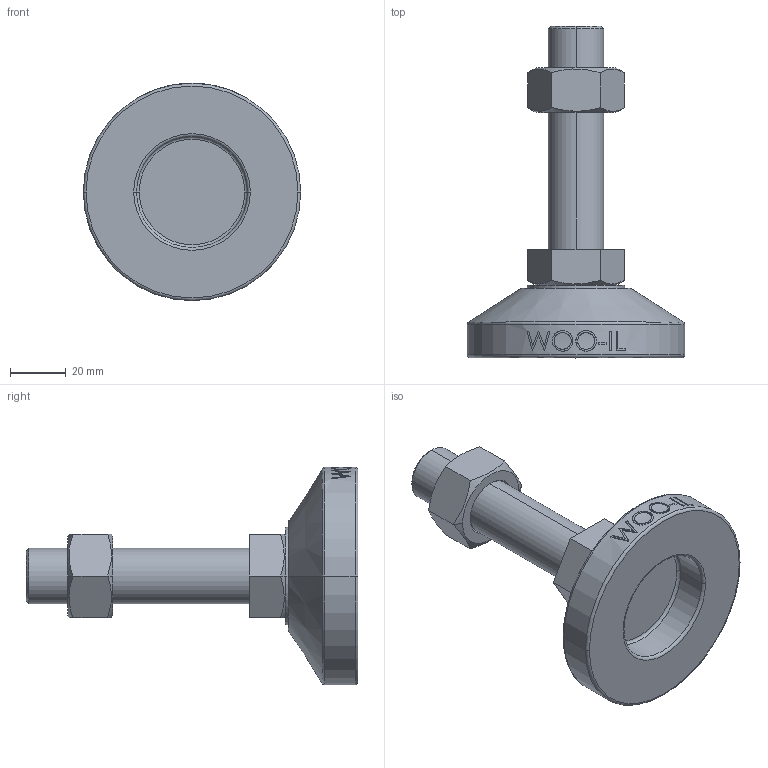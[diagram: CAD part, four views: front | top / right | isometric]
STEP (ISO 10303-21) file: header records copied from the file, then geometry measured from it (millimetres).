
FILE_DESCRIPTION (( 'STEP AP214' ), '1' );
FILE_NAME ('MF78-M20-80.step', '2021-02-03T08:22:05', ( '' ), ( '' ), 'SwSTEP 2.0', 'SolidWorks 2019', '' );
FILE_SCHEMA (( 'AUTOMOTIVE_DESIGN' ));
Length unit declared in the file: millimetre
Products named in the file (2): MF78-M20-80
Bounding box: 78 x 119 x 78 mm (x, y, z)
Volume: 122358.7 mm3; surface area: 26021 mm2
Topology: 3 solids, 3 shells, 106 faces, 243 edges, 154 vertices
Faces by surface type: plane 48, cylinder 18, bspline 16, cone 14, torus 10
Entity records: 4532 total; most frequent: CARTESIAN_POINT 2189, ORIENTED_EDGE 486, DIRECTION 439, EDGE_CURVE 243, AXIS2_PLACEMENT_3D 170, VERTEX_POINT 154, EDGE_LOOP 119, FACE_OUTER_BOUND 106
